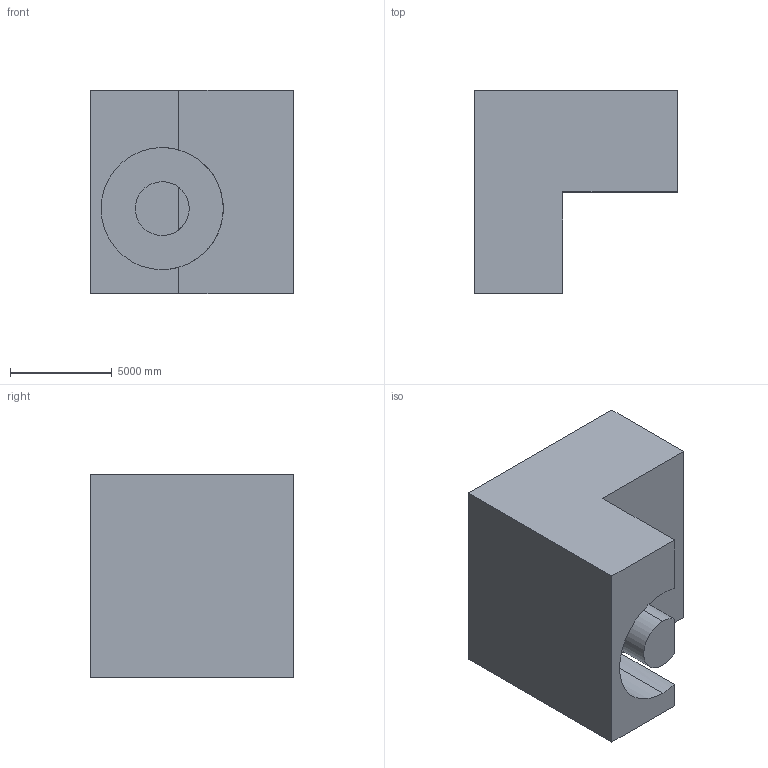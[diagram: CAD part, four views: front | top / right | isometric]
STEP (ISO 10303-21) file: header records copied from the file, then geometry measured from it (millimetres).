
FILE_DESCRIPTION (( 'STEP AP203' ), '1' );
FILE_NAME ('30.STEP', '2022-07-28T13:26:51', ( 'user' ), ( '' ), 'SwSTEP 2.0', 'SolidWorks 2021', '' );
FILE_SCHEMA (( 'CONFIG_CONTROL_DESIGN' ));
Length unit declared in the file: centimetre
Products named in the file (1): 30
Bounding box: 10000 x 10000 x 10000 mm (x, y, z)
Volume: 573893253618.5 mm3; surface area: 696033859.5 mm2
Topology: 1 solids, 1 shells, 17 faces, 42 edges, 28 vertices
Faces by surface type: plane 13, cylinder 4
Entity records: 585 total; most frequent: DIRECTION 90, CARTESIAN_POINT 88, ORIENTED_EDGE 84, EDGE_CURVE 42, LINE 30, AXIS2_PLACEMENT_3D 30, VECTOR 30, VERTEX_POINT 28
